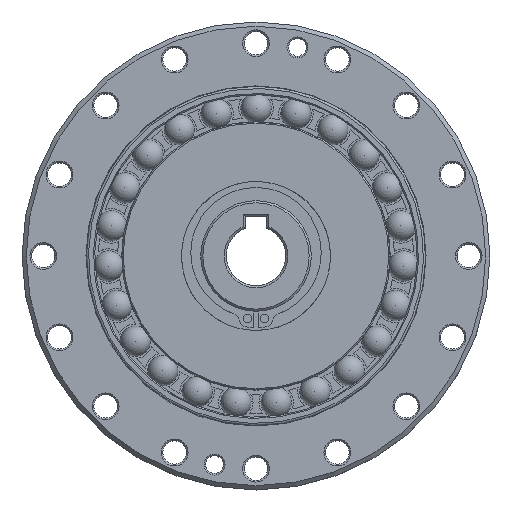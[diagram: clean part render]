
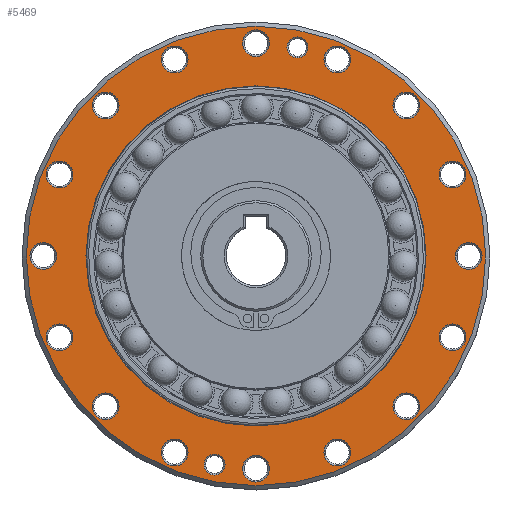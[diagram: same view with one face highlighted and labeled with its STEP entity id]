
A CAD part, top view. The second image highlights one B-rep face of the part: STEP entity #5469.
In plain terms, the highlighted planar face has unit normal (0, 0, 1).
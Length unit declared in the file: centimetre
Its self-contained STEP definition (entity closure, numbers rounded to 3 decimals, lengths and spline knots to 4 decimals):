
#541=PLANE($,#6269);
#946=FACE_BOUND($,#1759,.T.);
#947=FACE_BOUND($,#1760,.T.);
#948=FACE_BOUND($,#1761,.T.);
#949=FACE_BOUND($,#1762,.T.);
#950=FACE_BOUND($,#1763,.T.);
#951=FACE_BOUND($,#1764,.T.);
#952=FACE_BOUND($,#1765,.T.);
#953=FACE_BOUND($,#1766,.T.);
#954=FACE_BOUND($,#1767,.T.);
#955=FACE_BOUND($,#1768,.T.);
#956=FACE_BOUND($,#1769,.T.);
#957=FACE_BOUND($,#1770,.T.);
#958=FACE_BOUND($,#1771,.T.);
#959=FACE_BOUND($,#1772,.T.);
#960=FACE_BOUND($,#1773,.T.);
#961=FACE_BOUND($,#1774,.T.);
#962=FACE_BOUND($,#1775,.T.);
#963=FACE_BOUND($,#1776,.T.);
#964=FACE_BOUND($,#1777,.T.);
#965=FACE_BOUND($,#1778,.T.);
#1759=EDGE_LOOP($,(#4798));
#1760=EDGE_LOOP($,(#4799));
#1761=EDGE_LOOP($,(#4800));
#1762=EDGE_LOOP($,(#4801));
#1763=EDGE_LOOP($,(#4802));
#1764=EDGE_LOOP($,(#4803));
#1765=EDGE_LOOP($,(#4804));
#1766=EDGE_LOOP($,(#4805));
#1767=EDGE_LOOP($,(#4806));
#1768=EDGE_LOOP($,(#4807));
#1769=EDGE_LOOP($,(#4808));
#1770=EDGE_LOOP($,(#4809));
#1771=EDGE_LOOP($,(#4810));
#1772=EDGE_LOOP($,(#4811));
#1773=EDGE_LOOP($,(#4812));
#1774=EDGE_LOOP($,(#4813));
#1775=EDGE_LOOP($,(#4814));
#1776=EDGE_LOOP($,(#4815));
#1777=EDGE_LOOP($,(#4816));
#1778=EDGE_LOOP($,(#4817));
#2414=CIRCLE($,#6268,3.9974);
#2415=CIRCLE($,#6270,0.315);
#2416=CIRCLE($,#6271,0.315);
#2417=CIRCLE($,#6272,0.315);
#2418=CIRCLE($,#6273,0.315);
#2419=CIRCLE($,#6274,0.315);
#2420=CIRCLE($,#6275,0.315);
#2421=CIRCLE($,#6276,0.315);
#2422=CIRCLE($,#6277,0.315);
#2423=CIRCLE($,#6278,0.315);
#2424=CIRCLE($,#6279,0.315);
#2425=CIRCLE($,#6280,0.315);
#2426=CIRCLE($,#6281,0.315);
#2427=CIRCLE($,#6282,0.315);
#2428=CIRCLE($,#6283,0.315);
#2429=CIRCLE($,#6284,0.315);
#2430=CIRCLE($,#6285,0.315);
#2431=CIRCLE($,#6286,0.2467);
#2432=CIRCLE($,#6287,0.2467);
#2433=CIRCLE($,#6288,5.4);
#2875=VERTEX_POINT($,#9577);
#2876=VERTEX_POINT($,#9580);
#2877=VERTEX_POINT($,#9582);
#2878=VERTEX_POINT($,#9584);
#2879=VERTEX_POINT($,#9586);
#2880=VERTEX_POINT($,#9588);
#2881=VERTEX_POINT($,#9590);
#2882=VERTEX_POINT($,#9592);
#2883=VERTEX_POINT($,#9594);
#2884=VERTEX_POINT($,#9596);
#2885=VERTEX_POINT($,#9598);
#2886=VERTEX_POINT($,#9600);
#2887=VERTEX_POINT($,#9602);
#2888=VERTEX_POINT($,#9604);
#2889=VERTEX_POINT($,#9606);
#2890=VERTEX_POINT($,#9608);
#2891=VERTEX_POINT($,#9610);
#2892=VERTEX_POINT($,#9612);
#2893=VERTEX_POINT($,#9614);
#2894=VERTEX_POINT($,#9616);
#3531=EDGE_CURVE($,#2875,#2875,#2414,.T.);
#3532=EDGE_CURVE($,#2876,#2876,#2415,.T.);
#3533=EDGE_CURVE($,#2877,#2877,#2416,.T.);
#3534=EDGE_CURVE($,#2878,#2878,#2417,.T.);
#3535=EDGE_CURVE($,#2879,#2879,#2418,.T.);
#3536=EDGE_CURVE($,#2880,#2880,#2419,.T.);
#3537=EDGE_CURVE($,#2881,#2881,#2420,.T.);
#3538=EDGE_CURVE($,#2882,#2882,#2421,.T.);
#3539=EDGE_CURVE($,#2883,#2883,#2422,.T.);
#3540=EDGE_CURVE($,#2884,#2884,#2423,.T.);
#3541=EDGE_CURVE($,#2885,#2885,#2424,.T.);
#3542=EDGE_CURVE($,#2886,#2886,#2425,.T.);
#3543=EDGE_CURVE($,#2887,#2887,#2426,.T.);
#3544=EDGE_CURVE($,#2888,#2888,#2427,.T.);
#3545=EDGE_CURVE($,#2889,#2889,#2428,.T.);
#3546=EDGE_CURVE($,#2890,#2890,#2429,.T.);
#3547=EDGE_CURVE($,#2891,#2891,#2430,.T.);
#3548=EDGE_CURVE($,#2892,#2892,#2431,.T.);
#3549=EDGE_CURVE($,#2893,#2893,#2432,.T.);
#3550=EDGE_CURVE($,#2894,#2894,#2433,.T.);
#4798=ORIENTED_EDGE($,*,*,#3532,.F.);
#4799=ORIENTED_EDGE($,*,*,#3533,.F.);
#4800=ORIENTED_EDGE($,*,*,#3534,.F.);
#4801=ORIENTED_EDGE($,*,*,#3535,.F.);
#4802=ORIENTED_EDGE($,*,*,#3536,.F.);
#4803=ORIENTED_EDGE($,*,*,#3537,.F.);
#4804=ORIENTED_EDGE($,*,*,#3538,.F.);
#4805=ORIENTED_EDGE($,*,*,#3539,.F.);
#4806=ORIENTED_EDGE($,*,*,#3540,.F.);
#4807=ORIENTED_EDGE($,*,*,#3541,.F.);
#4808=ORIENTED_EDGE($,*,*,#3542,.F.);
#4809=ORIENTED_EDGE($,*,*,#3543,.F.);
#4810=ORIENTED_EDGE($,*,*,#3544,.F.);
#4811=ORIENTED_EDGE($,*,*,#3545,.F.);
#4812=ORIENTED_EDGE($,*,*,#3546,.F.);
#4813=ORIENTED_EDGE($,*,*,#3547,.F.);
#4814=ORIENTED_EDGE($,*,*,#3548,.F.);
#4815=ORIENTED_EDGE($,*,*,#3549,.F.);
#4816=ORIENTED_EDGE($,*,*,#3550,.F.);
#4817=ORIENTED_EDGE($,*,*,#3531,.T.);
#5469=ADVANCED_FACE($,(#946,#947,#948,#949,#950,#951,#952,#953,#954,#955,
#956,#957,#958,#959,#960,#961,#962,#963,#964,#965),#541,.T.);
#6268=AXIS2_PLACEMENT_3D($,#9578,#7969,#7970);
#6269=AXIS2_PLACEMENT_3D($,#9579,#7971,#7972);
#6270=AXIS2_PLACEMENT_3D($,#9581,#7973,#7974);
#6271=AXIS2_PLACEMENT_3D($,#9583,#7975,#7976);
#6272=AXIS2_PLACEMENT_3D($,#9585,#7977,#7978);
#6273=AXIS2_PLACEMENT_3D($,#9587,#7979,#7980);
#6274=AXIS2_PLACEMENT_3D($,#9589,#7981,#7982);
#6275=AXIS2_PLACEMENT_3D($,#9591,#7983,#7984);
#6276=AXIS2_PLACEMENT_3D($,#9593,#7985,#7986);
#6277=AXIS2_PLACEMENT_3D($,#9595,#7987,#7988);
#6278=AXIS2_PLACEMENT_3D($,#9597,#7989,#7990);
#6279=AXIS2_PLACEMENT_3D($,#9599,#7991,#7992);
#6280=AXIS2_PLACEMENT_3D($,#9601,#7993,#7994);
#6281=AXIS2_PLACEMENT_3D($,#9603,#7995,#7996);
#6282=AXIS2_PLACEMENT_3D($,#9605,#7997,#7998);
#6283=AXIS2_PLACEMENT_3D($,#9607,#7999,#8000);
#6284=AXIS2_PLACEMENT_3D($,#9609,#8001,#8002);
#6285=AXIS2_PLACEMENT_3D($,#9611,#8003,#8004);
#6286=AXIS2_PLACEMENT_3D($,#9613,#8005,#8006);
#6287=AXIS2_PLACEMENT_3D($,#9615,#8007,#8008);
#6288=AXIS2_PLACEMENT_3D($,#9617,#8009,#8010);
#7969=DIRECTION('center_axis',(0.,0.,-1.));
#7970=DIRECTION('ref_axis',(1.,0.,0.));
#7971=DIRECTION('center_axis',(0.,0.,1.));
#7972=DIRECTION('ref_axis',(1.,0.,0.));
#7973=DIRECTION('center_axis',(0.,0.,
1.));
#7974=DIRECTION('ref_axis',(-1.,0.,0.));
#7975=DIRECTION('center_axis',(0.,0.,
1.));
#7976=DIRECTION('ref_axis',(-1.,0.,0.));
#7977=DIRECTION('center_axis',(0.,0.,
1.));
#7978=DIRECTION('ref_axis',(-1.,0.,0.));
#7979=DIRECTION('center_axis',(0.,0.,
1.));
#7980=DIRECTION('ref_axis',(-1.,0.,0.));
#7981=DIRECTION('center_axis',(0.,0.,
1.));
#7982=DIRECTION('ref_axis',(-1.,0.,0.));
#7983=DIRECTION('center_axis',(0.,0.,
1.));
#7984=DIRECTION('ref_axis',(-1.,0.,0.));
#7985=DIRECTION('center_axis',(0.,0.,
1.));
#7986=DIRECTION('ref_axis',(-1.,0.,0.));
#7987=DIRECTION('center_axis',(0.,0.,
1.));
#7988=DIRECTION('ref_axis',(-1.,0.,0.));
#7989=DIRECTION('center_axis',(0.,0.,
1.));
#7990=DIRECTION('ref_axis',(-1.,0.,0.));
#7991=DIRECTION('center_axis',(0.,0.,
1.));
#7992=DIRECTION('ref_axis',(-1.,0.,0.));
#7993=DIRECTION('center_axis',(0.,0.,
1.));
#7994=DIRECTION('ref_axis',(-1.,0.,0.));
#7995=DIRECTION('center_axis',(0.,0.,
1.));
#7996=DIRECTION('ref_axis',(-1.,0.,0.));
#7997=DIRECTION('center_axis',(0.,0.,
1.));
#7998=DIRECTION('ref_axis',(-1.,0.,0.));
#7999=DIRECTION('center_axis',(0.,0.,
1.));
#8000=DIRECTION('ref_axis',(-1.,0.,0.));
#8001=DIRECTION('center_axis',(0.,0.,
1.));
#8002=DIRECTION('ref_axis',(-1.,0.,0.));
#8003=DIRECTION('center_axis',(0.,0.,
1.));
#8004=DIRECTION('ref_axis',(-1.,0.,0.));
#8005=DIRECTION('center_axis',(0.,0.,
1.));
#8006=DIRECTION('ref_axis',(-1.,0.,0.));
#8007=DIRECTION('center_axis',(0.,0.,
1.));
#8008=DIRECTION('ref_axis',(-1.,0.,0.));
#8009=DIRECTION('center_axis',(0.,0.,
-1.));
#8010=DIRECTION('ref_axis',(0.,-1.,0.));
#9577=CARTESIAN_POINT('',(0.,-3.9974,0.));
#9578=CARTESIAN_POINT('Origin',(0.,0.,0.));
#9579=CARTESIAN_POINT('Origin',(0.,-4.056,0.));
#9580=CARTESIAN_POINT('',(0.315,5.,0.));
#9581=CARTESIAN_POINT('Origin',(0.,5.,0.));
#9582=CARTESIAN_POINT('',(-1.5984,4.6194,0.));
#9583=CARTESIAN_POINT('Origin',(-1.9134,4.6194,0.));
#9584=CARTESIAN_POINT('',(-3.2205,3.5355,0.));
#9585=CARTESIAN_POINT('Origin',(-3.5355,3.5355,0.));
#9586=CARTESIAN_POINT('',(-4.3044,1.9134,0.));
#9587=CARTESIAN_POINT('Origin',(-4.6194,1.9134,0.));
#9588=CARTESIAN_POINT('',(-4.685,0.,0.));
#9589=CARTESIAN_POINT('Origin',(-5.,0.,0.));
#9590=CARTESIAN_POINT('',(-4.3044,-1.9134,0.));
#9591=CARTESIAN_POINT('Origin',(-4.6194,-1.9134,0.));
#9592=CARTESIAN_POINT('',(-3.2205,-3.5355,0.));
#9593=CARTESIAN_POINT('Origin',(-3.5355,-3.5355,0.));
#9594=CARTESIAN_POINT('',(-1.5984,-4.6194,0.));
#9595=CARTESIAN_POINT('Origin',(-1.9134,-4.6194,0.));
#9596=CARTESIAN_POINT('',(0.315,-5.,0.));
#9597=CARTESIAN_POINT('Origin',(0.,-5.,0.));
#9598=CARTESIAN_POINT('',(2.2284,-4.6194,0.));
#9599=CARTESIAN_POINT('Origin',(1.9134,-4.6194,0.));
#9600=CARTESIAN_POINT('',(3.8505,-3.5355,0.));
#9601=CARTESIAN_POINT('Origin',(3.5355,-3.5355,0.));
#9602=CARTESIAN_POINT('',(4.9344,-1.9134,0.));
#9603=CARTESIAN_POINT('Origin',(4.6194,-1.9134,0.));
#9604=CARTESIAN_POINT('',(5.315,0.,0.));
#9605=CARTESIAN_POINT('Origin',(5.,0.,0.));
#9606=CARTESIAN_POINT('',(4.9344,1.9134,0.));
#9607=CARTESIAN_POINT('Origin',(4.6194,1.9134,0.));
#9608=CARTESIAN_POINT('',(3.8505,3.5355,0.));
#9609=CARTESIAN_POINT('Origin',(3.5355,3.5355,0.));
#9610=CARTESIAN_POINT('',(2.2284,4.6194,0.));
#9611=CARTESIAN_POINT('Origin',(1.9134,4.6194,0.));
#9612=CARTESIAN_POINT('',(-0.7288,-4.9039,0.));
#9613=CARTESIAN_POINT('Origin',(-0.9755,-4.9039,0.));
#9614=CARTESIAN_POINT('',(1.2222,4.9039,0.));
#9615=CARTESIAN_POINT('Origin',(0.9755,4.9039,0.));
#9616=CARTESIAN_POINT('',(0.,5.4,0.));
#9617=CARTESIAN_POINT('Origin',(0.,0.,
0.));
